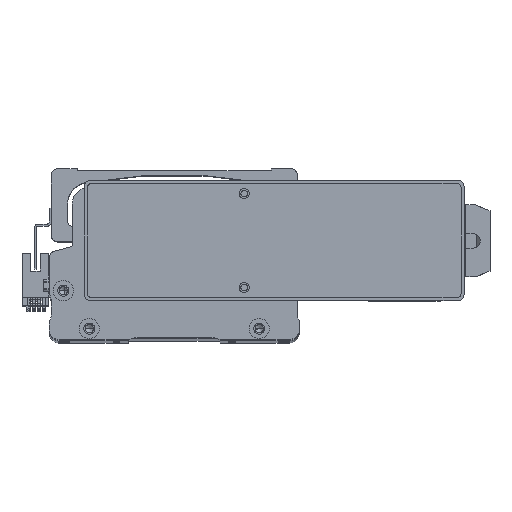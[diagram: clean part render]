
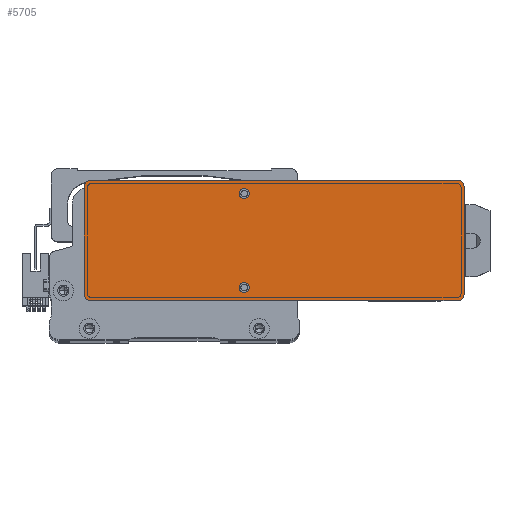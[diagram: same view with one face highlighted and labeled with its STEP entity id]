
A CAD part, top view. The second image highlights one B-rep face of the part: STEP entity #5705.
In plain terms, the highlighted planar face has unit normal (0, 0, 1) as drawn and (0, 0, -1) by its records, which use the part's own axes.
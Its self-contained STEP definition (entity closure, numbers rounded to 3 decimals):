
#251 = CARTESIAN_POINT ( 'NONE',  ( 95., 30., 0. ) ) ;
#590 = ORIENTED_EDGE ( 'NONE', *, *, #7836, .F. ) ;
#875 = LINE ( 'NONE', #36961, #76420 ) ;
#1301 = CARTESIAN_POINT ( 'NONE',  ( -15., -23.5, 0. ) ) ;
#1377 = CARTESIAN_POINT ( 'NONE',  ( 95., -30., 0. ) ) ;
#2221 = EDGE_LOOP ( 'NONE', ( #68733, #35723 ) ) ;
#4806 = DIRECTION ( 'NONE',  ( 0., 0., -1. ) ) ;
#4844 = CARTESIAN_POINT ( 'NONE',  ( 95., 27., 0. ) ) ;
#5053 = CARTESIAN_POINT ( 'NONE',  ( -92., -30., 0. ) ) ;
#5705 = ADVANCED_FACE ( 'NONE', ( #10079, #24406, #69393 ), #21842, .F. ) ;
#6313 = DIRECTION ( 'NONE',  ( -1., 0., 0. ) ) ;
#6930 = CARTESIAN_POINT ( 'NONE',  ( -15., -23.5, 0. ) ) ;
#7383 = DIRECTION ( 'NONE',  ( -1., 0., 0. ) ) ;
#7698 = LINE ( 'NONE', #76772, #54554 ) ;
#7836 = EDGE_CURVE ( 'NONE', #56234, #53176, #22513, .T. ) ;
#9163 = LINE ( 'NONE', #251, #37845 ) ;
#9530 = CARTESIAN_POINT ( 'NONE',  ( 0., 0., 0. ) ) ;
#10079 = FACE_BOUND ( 'NONE', #2221, .T. ) ;
#10896 = VERTEX_POINT ( 'NONE', #64248 ) ;
#11343 = ORIENTED_EDGE ( 'NONE', *, *, #23039, .F. ) ;
#11575 = AXIS2_PLACEMENT_3D ( 'NONE', #56636, #20019, #62794 ) ;
#12653 = CIRCLE ( 'NONE', #11575, 3. ) ;
#12711 = CARTESIAN_POINT ( 'NONE',  ( 92., 27., 0. ) ) ;
#13073 = CARTESIAN_POINT ( 'NONE',  ( -92., 30., 0. ) ) ;
#13138 = DIRECTION ( 'NONE',  ( -1., 0., 0. ) ) ;
#14090 = ORIENTED_EDGE ( 'NONE', *, *, #17791, .T. ) ;
#14841 = AXIS2_PLACEMENT_3D ( 'NONE', #69758, #33095, #75897 ) ;
#15657 = EDGE_CURVE ( 'NONE', #68726, #64792, #68082, .T. ) ;
#17791 = EDGE_CURVE ( 'NONE', #56234, #30074, #12653, .T. ) ;
#18610 = DIRECTION ( 'NONE',  ( 0., 0., -1. ) ) ;
#18688 = ORIENTED_EDGE ( 'NONE', *, *, #44138, .F. ) ;
#18842 = DIRECTION ( 'NONE',  ( 1., 0., 0. ) ) ;
#19644 = EDGE_LOOP ( 'NONE', ( #70344, #39913, #590, #14090, #18688, #22942, #39689, #63595 ) ) ;
#20019 = DIRECTION ( 'NONE',  ( 0., 0., -1. ) ) ;
#20208 = DIRECTION ( 'NONE',  ( 0., 0., -1. ) ) ;
#20501 = EDGE_CURVE ( 'NONE', #10896, #44476, #25975, .T. ) ;
#21072 = CARTESIAN_POINT ( 'NONE',  ( -17.5, 23.5, 0. ) ) ;
#21842 = PLANE ( 'NONE',  #59344 ) ;
#22237 = VERTEX_POINT ( 'NONE', #21072 ) ;
#22513 = LINE ( 'NONE', #1377, #53116 ) ;
#22942 = ORIENTED_EDGE ( 'NONE', *, *, #20501, .T. ) ;
#23039 = EDGE_CURVE ( 'NONE', #64792, #68726, #39802, .T. ) ;
#24406 = FACE_OUTER_BOUND ( 'NONE', #19644, .T. ) ;
#25376 = EDGE_CURVE ( 'NONE', #35939, #46747, #35710, .T. ) ;
#25975 = CIRCLE ( 'NONE', #14841, 3. ) ;
#27978 = DIRECTION ( 'NONE',  ( 1., 0., 0. ) ) ;
#28307 = VERTEX_POINT ( 'NONE', #41476 ) ;
#28667 = EDGE_LOOP ( 'NONE', ( #11343, #69477 ) ) ;
#29352 = AXIS2_PLACEMENT_3D ( 'NONE', #1301, #44005, #7383 ) ;
#30074 = VERTEX_POINT ( 'NONE', #56164 ) ;
#30538 = CARTESIAN_POINT ( 'NONE',  ( -12.5, -23.5, 0. ) ) ;
#31478 = AXIS2_PLACEMENT_3D ( 'NONE', #55248, #18610, #61378 ) ;
#31802 = DIRECTION ( 'NONE',  ( 1., 0., 0. ) ) ;
#32374 = CARTESIAN_POINT ( 'NONE',  ( -12.5, 23.5, 0. ) ) ;
#33095 = DIRECTION ( 'NONE',  ( 0., 0., -1. ) ) ;
#35413 = CIRCLE ( 'NONE', #78374, 3. ) ;
#35710 = CIRCLE ( 'NONE', #51568, 3. ) ;
#35723 = ORIENTED_EDGE ( 'NONE', *, *, #67300, .F. ) ;
#35827 = EDGE_CURVE ( 'NONE', #22237, #76656, #37619, .T. ) ;
#35939 = VERTEX_POINT ( 'NONE', #66551 ) ;
#36961 = CARTESIAN_POINT ( 'NONE',  ( 95., -30., 0. ) ) ;
#37619 = CIRCLE ( 'NONE', #79050, 2.5 ) ;
#37845 = VECTOR ( 'NONE', #6313, 1000. ) ;
#39689 = ORIENTED_EDGE ( 'NONE', *, *, #42744, .F. ) ;
#39802 = CIRCLE ( 'NONE', #29352, 2.5 ) ;
#39913 = ORIENTED_EDGE ( 'NONE', *, *, #47569, .T. ) ;
#40100 = DIRECTION ( 'NONE',  ( 0., -1., 0. ) ) ;
#41440 = CARTESIAN_POINT ( 'NONE',  ( -15., 23.5, 0. ) ) ;
#41476 = CARTESIAN_POINT ( 'NONE',  ( 95., -27., 0. ) ) ;
#41682 = EDGE_CURVE ( 'NONE', #28307, #46747, #875, .T. ) ;
#42744 = EDGE_CURVE ( 'NONE', #35939, #44476, #9163, .T. ) ;
#43104 = DIRECTION ( 'NONE',  ( 0., 1., 0. ) ) ;
#44005 = DIRECTION ( 'NONE',  ( 0., 0., -1. ) ) ;
#44138 = EDGE_CURVE ( 'NONE', #10896, #30074, #7698, .T. ) ;
#44476 = VERTEX_POINT ( 'NONE', #13073 ) ;
#46747 = VERTEX_POINT ( 'NONE', #4844 ) ;
#47569 = EDGE_CURVE ( 'NONE', #28307, #53176, #35413, .T. ) ;
#47603 = DIRECTION ( 'NONE',  ( -1., 0., 0. ) ) ;
#49727 = DIRECTION ( 'NONE',  ( 0., 0., -1. ) ) ;
#51568 = AXIS2_PLACEMENT_3D ( 'NONE', #12711, #55468, #18842 ) ;
#53116 = VECTOR ( 'NONE', #31802, 1000. ) ;
#53176 = VERTEX_POINT ( 'NONE', #53546 ) ;
#53546 = CARTESIAN_POINT ( 'NONE',  ( 92., -30., 0. ) ) ;
#54554 = VECTOR ( 'NONE', #40100, 1000. ) ;
#55248 = CARTESIAN_POINT ( 'NONE',  ( -15., 23.5, 0. ) ) ;
#55468 = DIRECTION ( 'NONE',  ( 0., 0., -1. ) ) ;
#56164 = CARTESIAN_POINT ( 'NONE',  ( -95., -27., 0. ) ) ;
#56234 = VERTEX_POINT ( 'NONE', #5053 ) ;
#56636 = CARTESIAN_POINT ( 'NONE',  ( -92., -27., 0. ) ) ;
#56679 = CARTESIAN_POINT ( 'NONE',  ( -17.5, -23.5, 0. ) ) ;
#56833 = CARTESIAN_POINT ( 'NONE',  ( 92., -27., 0. ) ) ;
#59344 = AXIS2_PLACEMENT_3D ( 'NONE', #9530, #64612, #27978 ) ;
#61378 = DIRECTION ( 'NONE',  ( -1., 0., 0. ) ) ;
#62794 = DIRECTION ( 'NONE',  ( 1., 0., 0. ) ) ;
#63002 = DIRECTION ( 'NONE',  ( 1., 0., 0. ) ) ;
#63595 = ORIENTED_EDGE ( 'NONE', *, *, #25376, .T. ) ;
#64248 = CARTESIAN_POINT ( 'NONE',  ( -95., 27., 0. ) ) ;
#64612 = DIRECTION ( 'NONE',  ( 0., 0., 1. ) ) ;
#64792 = VERTEX_POINT ( 'NONE', #56679 ) ;
#66551 = CARTESIAN_POINT ( 'NONE',  ( 92., 30., 0. ) ) ;
#67300 = EDGE_CURVE ( 'NONE', #76656, #22237, #72084, .T. ) ;
#68082 = CIRCLE ( 'NONE', #74950, 2.5 ) ;
#68726 = VERTEX_POINT ( 'NONE', #30538 ) ;
#68733 = ORIENTED_EDGE ( 'NONE', *, *, #35827, .F. ) ;
#69393 = FACE_BOUND ( 'NONE', #28667, .T. ) ;
#69477 = ORIENTED_EDGE ( 'NONE', *, *, #15657, .F. ) ;
#69758 = CARTESIAN_POINT ( 'NONE',  ( -92., 27., 0. ) ) ;
#70344 = ORIENTED_EDGE ( 'NONE', *, *, #41682, .F. ) ;
#72084 = CIRCLE ( 'NONE', #31478, 2.5 ) ;
#74950 = AXIS2_PLACEMENT_3D ( 'NONE', #6930, #49727, #13138 ) ;
#75897 = DIRECTION ( 'NONE',  ( 1., 0., 0. ) ) ;
#76420 = VECTOR ( 'NONE', #43104, 1000. ) ;
#76656 = VERTEX_POINT ( 'NONE', #32374 ) ;
#76772 = CARTESIAN_POINT ( 'NONE',  ( -95., -30., 0. ) ) ;
#78374 = AXIS2_PLACEMENT_3D ( 'NONE', #56833, #20208, #63002 ) ;
#79050 = AXIS2_PLACEMENT_3D ( 'NONE', #41440, #4806, #47603 ) ;
